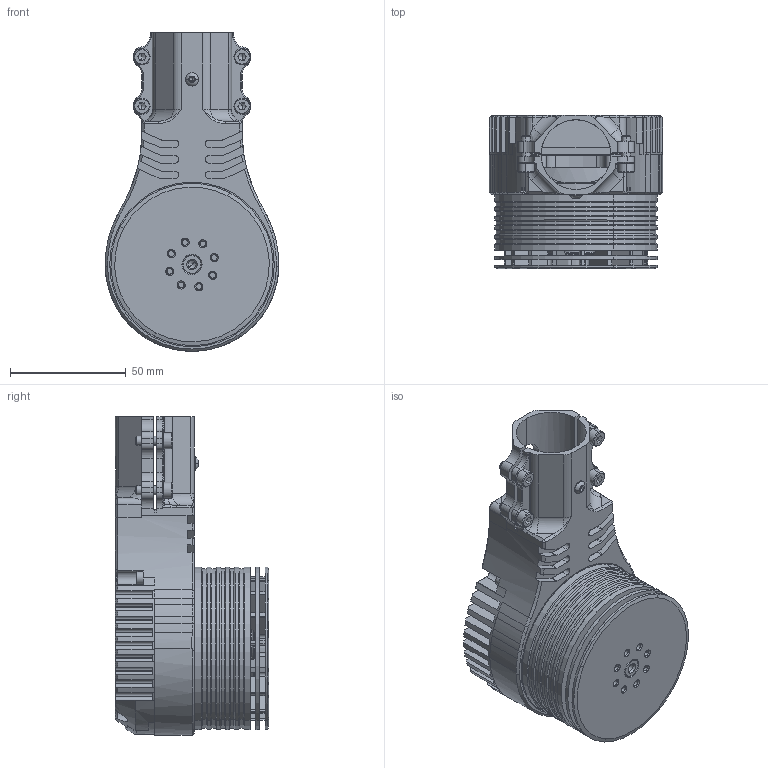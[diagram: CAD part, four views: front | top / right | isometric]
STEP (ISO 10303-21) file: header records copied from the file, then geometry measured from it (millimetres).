
FILE_DESCRIPTION (( 'STEP AP203' ), '1' );
FILE_NAME ('IPU R6 V4.STEP', '2026-04-29T09:10:23', ( '' ), ( '' ), 'RDSTEP 2.0', 'RD Product 2026', '' );
FILE_SCHEMA (( 'CONFIG_CONTROL_DESIGN' ));
Products named in the file (1): IPU R6 V4
Bounding box: 75 x 66.15 x 137.5 mm (x, y, z)
Volume: 243947.1 mm3; surface area: 83858.1 mm2
Topology: 1 solids, 15 shells, 1766 faces, 4822 edges, 3030 vertices
Faces by surface type: plane 775, cylinder 663, cone 217, torus 53, bspline 48, sphere 10
Entity records: 58949 total; most frequent: CARTESIAN_POINT 13359, DIRECTION 9813, ORIENTED_EDGE 9580, EDGE_CURVE 4790, AXIS2_PLACEMENT_3D 3611, VERTEX_POINT 3030, LINE 2591, VECTOR 2591
